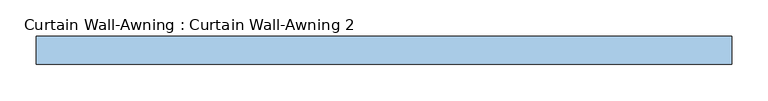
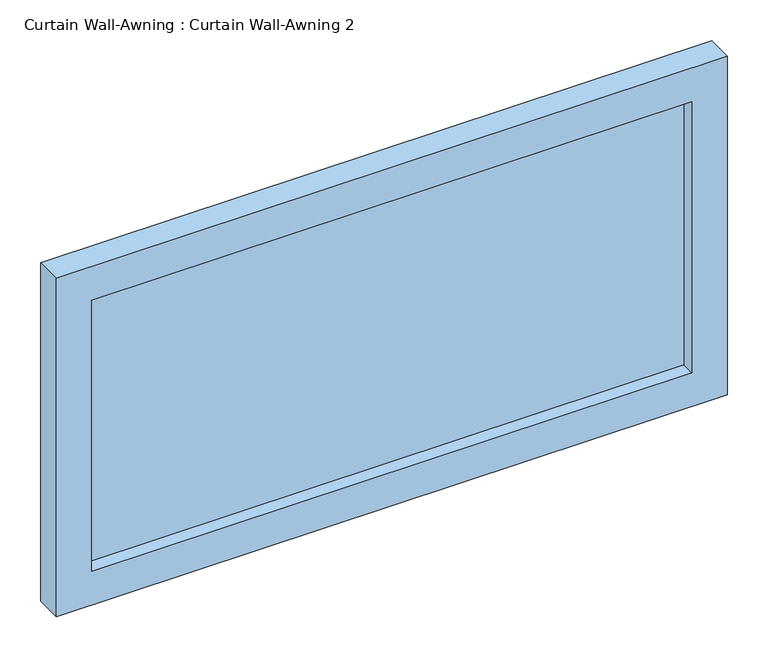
"""IFC4 building model written with IfcOpenShell, lengths in millimetres: window geometry, Curtain Wall-Awning : Curtain Wall-Awning 2."""

from ifc_helpers import new_model, si_unit, frame, origin, place, context, project, spatial, polyline, outline, extrude, source, transform, mapped, element, save


def curtain_wall_awning_curtain_wall_awning_2_f330da10(model_context):
    return source(origin(), model_context, "Body", "SweptSolid", [
        extrude(outline(polyline([(425.3374689, -19.05), (-425.3374689, -19.05), (-425.3374689, -6.35), (425.3374689, -6.35), (425.3374689, -19.05)])), frame((0.0, 0.0, 50.8), z_axis=(0.0, 0.0, 1.0), x_axis=(1.0, 0.0, 0.0)), (0.0, 0.0, 1.0), 406.2774401),
        extrude(outline(polyline([(507.8774401, -476.1374689), (0.0, -476.1374689), (0.0, 476.1374689), (507.8774401, 476.1374689), (507.8774401, -476.1374689)]), holes=[polyline([(457.0774401, -425.3374689), (457.0774401, 425.3374689), (50.8, 425.3374689), (50.8, -425.3374689), (457.0774401, -425.3374689)])]), frame((0.0, -38.1, 0.0), z_axis=(0.0, 1.0, 0.0), x_axis=(0.0, 0.0, 1.0)), (0.0, 0.0, 1.0), 38.1),
    ])


if __name__ == "__main__":
    model = new_model("IFC4")
    model_context = context("Model", 3, world=origin())
    ifc_project = project(units=[si_unit("LENGTHUNIT", "METRE", prefix="MILLI")], contexts=[model_context])
    site = spatial("IfcSite", under=ifc_project)
    building = spatial("IfcBuilding", under=site)
    placement = place(None, origin())
    curtain_wall_awning_curtain_wall_awning_2_shape = curtain_wall_awning_curtain_wall_awning_2_f330da10(model_context)
    element("IfcWindow", 1, ObjectType="Curtain Wall-Awning : Curtain Wall-Awning 2", at=placement, inside=building, context=model_context, shape_type="MappedRepresentation", body=[
        mapped(curtain_wall_awning_curtain_wall_awning_2_shape, transform((0.0, 0.0, 0.0), x_axis=(1.0, 0.0, 0.0), y_axis=(0.0, 1.0, 0.0), z_axis=(0.0, 0.0, 1.0))),
    ])
    save(model, "model.ifc")
